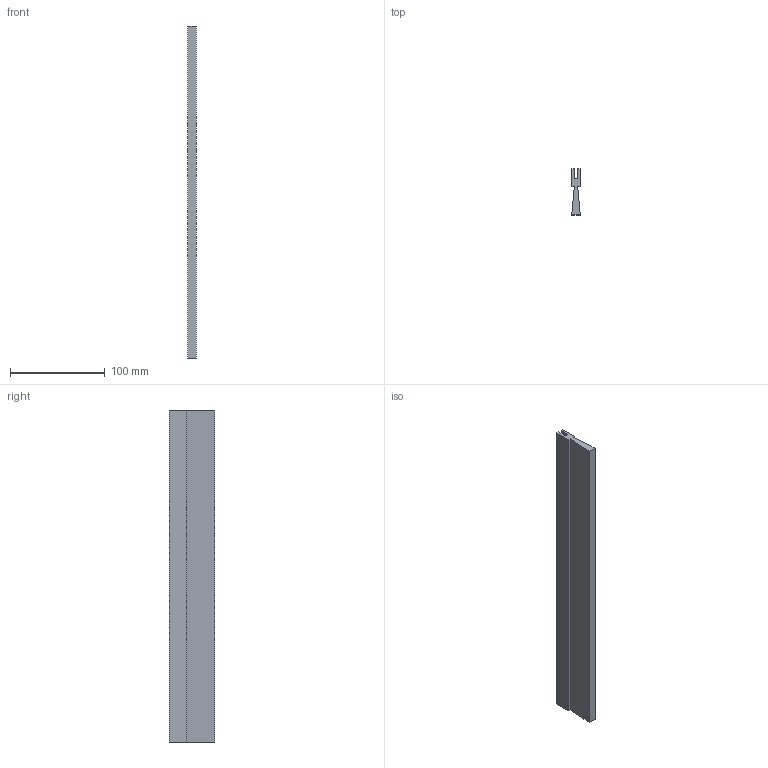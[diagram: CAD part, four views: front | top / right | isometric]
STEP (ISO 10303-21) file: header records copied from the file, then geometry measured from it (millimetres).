
FILE_DESCRIPTION (( 'STEP AP214' ), '1' );
FILE_NAME ('Ùåòêà ïëàñòèêîâàÿ ïëîñêàÿ (350 ìì).STEP', '2022-12-27T14:11:18', ( '' ), ( '' ), 'SwSTEP 2.0', 'SolidWorks 2018', '' );
FILE_SCHEMA (( 'AUTOMOTIVE_DESIGN' ));
Length unit declared in the file: millimetre
Products named in the file (1): Ùåòêà ïëàñòèêîâàÿ ïëîñêàÿ (350 ìì)
Bounding box: 9 x 48 x 350 mm (x, y, z)
Volume: 110250 mm3; surface area: 49504.9 mm2
Topology: 1 solids, 1 shells, 14 faces, 36 edges, 24 vertices
Faces by surface type: plane 14
Entity records: 454 total; most frequent: CARTESIAN_POINT 75, ORIENTED_EDGE 72, DIRECTION 66, VECTOR 36, LINE 36, EDGE_CURVE 36, VERTEX_POINT 24, AXIS2_PLACEMENT_3D 15
